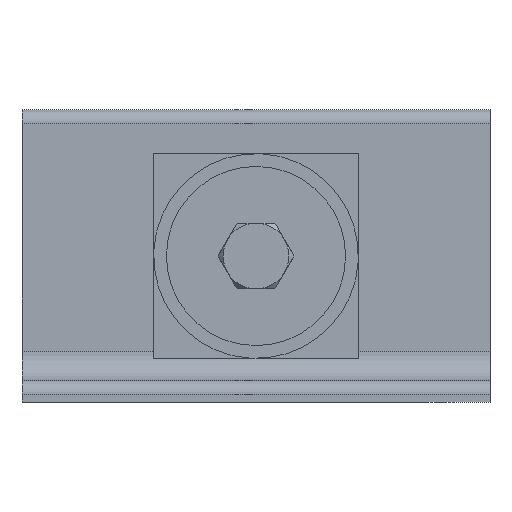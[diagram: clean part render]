
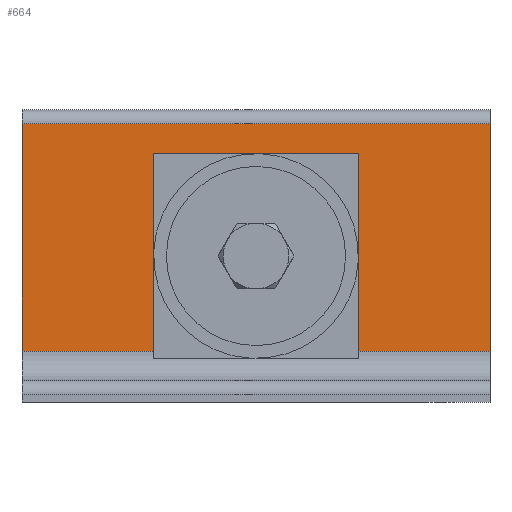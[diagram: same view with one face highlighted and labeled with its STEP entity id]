
A CAD part, front view. The second image highlights one B-rep face of the part: STEP entity #664.
In plain terms, the highlighted planar face has unit normal (0, -1, 0).
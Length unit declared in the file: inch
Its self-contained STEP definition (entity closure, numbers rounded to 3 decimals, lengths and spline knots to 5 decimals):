
#512=CARTESIAN_POINT('',(2.52474,3.99279,4.));
#513=VERTEX_POINT('',#512);
#514=CARTESIAN_POINT('',(1.30599,3.99279,4.));
#515=DIRECTION('',(0.0,1.0,0.0));
#516=DIRECTION('',(1.0,0.0,0.0));
#517=AXIS2_PLACEMENT_3D('',#514,#515,#516);
#518=CIRCLE('',#517,1.21875);
#519=EDGE_CURVE('',#513,#513,#518,.T.);
#603=CARTESIAN_POINT('',(3.56599,3.99279,8.0));
#604=VERTEX_POINT('',#603);
#612=CARTESIAN_POINT('',(3.56599,3.99279,0.0));
#613=VERTEX_POINT('',#612);
#614=CARTESIAN_POINT('',(3.56599,3.99279,0.0));
#615=DIRECTION('',(0.0,0.0,1.0));
#616=VECTOR('',#615,8.0);
#617=LINE('',#614,#616);
#618=EDGE_CURVE('',#613,#604,#617,.T.);
#631=CARTESIAN_POINT('',(3.56599,3.99279,0.0));
#632=DIRECTION('',(0.0,-1.0,0.0));
#633=DIRECTION('',(0.0,0.0,-1.0));
#634=AXIS2_PLACEMENT_3D('',#631,#632,#633);
#635=PLANE('',#634);
#636=CARTESIAN_POINT('',(-0.31901,3.99279,8.0));
#637=VERTEX_POINT('',#636);
#638=CARTESIAN_POINT('',(3.56599,3.99279,8.0));
#639=DIRECTION('',(-1.0,0.0,0.0));
#640=VECTOR('',#639,3.885);
#641=LINE('',#638,#640);
#642=EDGE_CURVE('',#604,#637,#641,.T.);
#643=ORIENTED_EDGE('',*,*,#642,.T.);
#644=CARTESIAN_POINT('',(-0.31901,3.99279,0.0));
#645=VERTEX_POINT('',#644);
#646=CARTESIAN_POINT('',(-0.31901,3.99279,0.0));
#647=DIRECTION('',(0.0,0.0,1.0));
#648=VECTOR('',#647,8.0);
#649=LINE('',#646,#648);
#650=EDGE_CURVE('',#645,#637,#649,.T.);
#651=ORIENTED_EDGE('',*,*,#650,.F.);
#652=CARTESIAN_POINT('',(3.56599,3.99279,0.0));
#653=DIRECTION('',(-1.0,0.0,0.0));
#654=VECTOR('',#653,3.885);
#655=LINE('',#652,#654);
#656=EDGE_CURVE('',#613,#645,#655,.T.);
#657=ORIENTED_EDGE('',*,*,#656,.F.);
#658=ORIENTED_EDGE('',*,*,#618,.T.);
#659=EDGE_LOOP('',(#643,#651,#657,#658));
#660=FACE_OUTER_BOUND('',#659,.T.);
#661=ORIENTED_EDGE('',*,*,#519,.T.);
#662=EDGE_LOOP('',(#661));
#663=FACE_BOUND('',#662,.T.);
#664=ADVANCED_FACE('',(#660,#663),#635,.T.);
